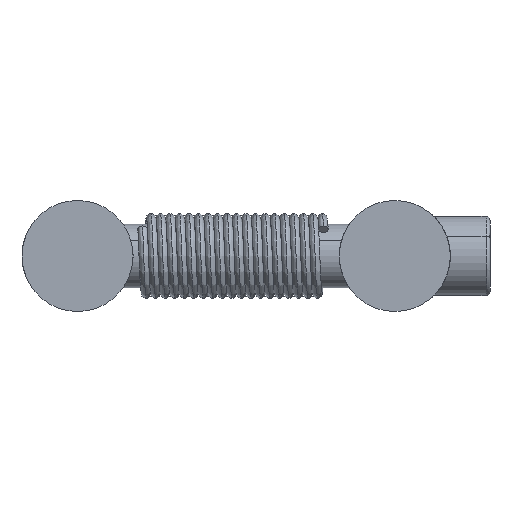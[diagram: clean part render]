
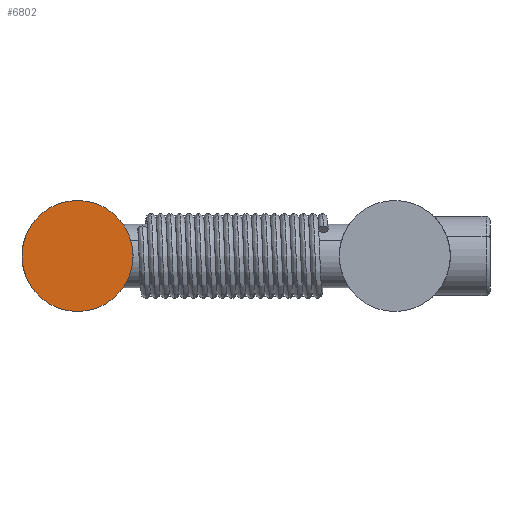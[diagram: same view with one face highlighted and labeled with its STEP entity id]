
A CAD part, front view. The second image highlights one B-rep face of the part: STEP entity #6802.
In plain terms, the highlighted planar face has unit normal (0, -1, 0) as drawn and (0, 0, -1) by its records, which use the part's own axes.
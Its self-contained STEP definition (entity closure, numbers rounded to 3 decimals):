
#672 = CARTESIAN_POINT ( 'NONE',  ( -40., 0., -39.75 ) ) ;
#748 = CARTESIAN_POINT ( 'NONE',  ( -33., 0., -39.75 ) ) ;
#1020 = ORIENTED_EDGE ( 'NONE', *, *, #4945, .F. ) ;
#1272 = EDGE_LOOP ( 'NONE', ( #7243, #1020 ) ) ;
#1341 = DIRECTION ( 'NONE',  ( -1., 0., 0. ) ) ;
#1571 = DIRECTION ( 'NONE',  ( 0., 0., 1. ) ) ;
#1578 = CIRCLE ( 'NONE', #2236, 7. ) ;
#1585 = DIRECTION ( 'NONE',  ( 1., 0., 0. ) ) ;
#2225 = PLANE ( 'NONE',  #7681 ) ;
#2236 = AXIS2_PLACEMENT_3D ( 'NONE', #5518, #1571, #6154 ) ;
#2809 = FACE_OUTER_BOUND ( 'NONE', #1272, .T. ) ;
#3570 = CARTESIAN_POINT ( 'NONE',  ( -40., 0., -39.75 ) ) ;
#4819 = CARTESIAN_POINT ( 'NONE',  ( -47., 0., -39.75 ) ) ;
#4945 = EDGE_CURVE ( 'NONE', #7267, #6567, #7635, .T. ) ;
#5286 = DIRECTION ( 'NONE',  ( 0., 0., 1. ) ) ;
#5422 = AXIS2_PLACEMENT_3D ( 'NONE', #672, #5286, #1341 ) ;
#5518 = CARTESIAN_POINT ( 'NONE',  ( -40., 0., -39.75 ) ) ;
#5528 = DIRECTION ( 'NONE',  ( 0., 0., 1. ) ) ;
#6154 = DIRECTION ( 'NONE',  ( -1., 0., 0. ) ) ;
#6567 = VERTEX_POINT ( 'NONE', #4819 ) ;
#6802 = ADVANCED_FACE ( 'NONE', ( #2809 ), #2225, .F. ) ;
#7243 = ORIENTED_EDGE ( 'NONE', *, *, #8005, .F. ) ;
#7267 = VERTEX_POINT ( 'NONE', #748 ) ;
#7635 = CIRCLE ( 'NONE', #5422, 7. ) ;
#7681 = AXIS2_PLACEMENT_3D ( 'NONE', #3570, #5528, #1585 ) ;
#8005 = EDGE_CURVE ( 'NONE', #6567, #7267, #1578, .T. ) ;
